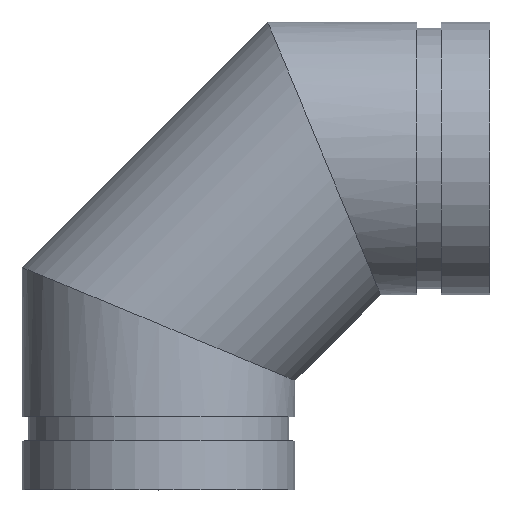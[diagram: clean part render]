
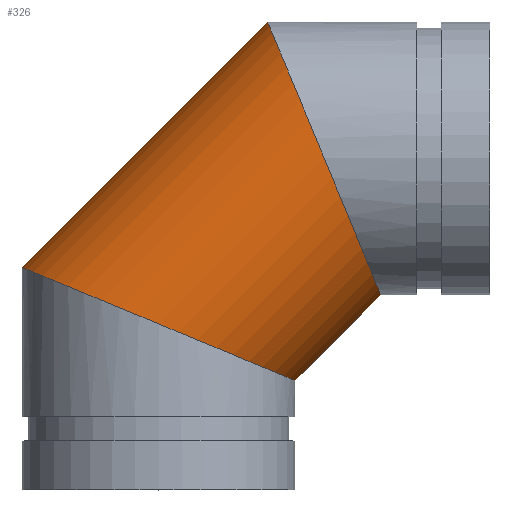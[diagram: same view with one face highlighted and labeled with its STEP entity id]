
A CAD part, top view. The second image highlights one B-rep face of the part: STEP entity #326.
In plain terms, the highlighted cylindrical face has radius 44.45 mm (diameter 88.9 mm), a full revolution.
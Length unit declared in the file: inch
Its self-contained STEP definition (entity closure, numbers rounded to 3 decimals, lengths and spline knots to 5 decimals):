
#51=ELLIPSE('',#383,1.89419,1.75);
#52=ELLIPSE('',#384,1.89419,1.75);
#53=ELLIPSE('',#385,1.89419,1.75);
#54=ELLIPSE('',#388,1.89419,1.75);
#55=ELLIPSE('',#389,1.89419,1.75);
#56=ELLIPSE('',#390,1.89419,1.75);
#82=FACE_OUTER_BOUND('',#103,.T.);
#103=EDGE_LOOP('',(#269,#270,#271,#272,#273,#274,#275,#276));
#115=LINE('',#606,#125);
#125=VECTOR('',#494,1.75);
#165=VERTEX_POINT('',#596);
#166=VERTEX_POINT('',#598);
#167=VERTEX_POINT('',#600);
#168=VERTEX_POINT('',#605);
#169=VERTEX_POINT('',#607);
#170=VERTEX_POINT('',#609);
#201=EDGE_CURVE('',#165,#166,#51,.T.);
#202=EDGE_CURVE('',#167,#166,#52,.T.);
#203=EDGE_CURVE('',#167,#165,#53,.T.);
#204=EDGE_CURVE('',#165,#168,#115,.T.);
#205=EDGE_CURVE('',#168,#169,#54,.T.);
#206=EDGE_CURVE('',#170,#169,#55,.T.);
#207=EDGE_CURVE('',#170,#168,#56,.T.);
#269=ORIENTED_EDGE('',*,*,#203,.F.);
#270=ORIENTED_EDGE('',*,*,#202,.T.);
#271=ORIENTED_EDGE('',*,*,#201,.F.);
#272=ORIENTED_EDGE('',*,*,#204,.T.);
#273=ORIENTED_EDGE('',*,*,#205,.T.);
#274=ORIENTED_EDGE('',*,*,#206,.F.);
#275=ORIENTED_EDGE('',*,*,#207,.T.);
#276=ORIENTED_EDGE('',*,*,#204,.F.);
#293=CYLINDRICAL_SURFACE('',#387,1.75);
#326=ADVANCED_FACE('',(#82),#293,.T.);
#383=AXIS2_PLACEMENT_3D('',#599,#484,#485);
#384=AXIS2_PLACEMENT_3D('',#601,#486,#487);
#385=AXIS2_PLACEMENT_3D('',#602,#488,#489);
#387=AXIS2_PLACEMENT_3D('',#604,#492,#493);
#388=AXIS2_PLACEMENT_3D('',#608,#495,#496);
#389=AXIS2_PLACEMENT_3D('',#610,#497,#498);
#390=AXIS2_PLACEMENT_3D('',#611,#499,#500);
#484=DIRECTION('center_axis',(-0.383,-0.924,0.));
#485=DIRECTION('ref_axis',(0.924,-0.383,0.));
#486=DIRECTION('center_axis',(0.383,0.924,0.));
#487=DIRECTION('ref_axis',(0.924,-0.383,0.));
#488=DIRECTION('center_axis',(-0.383,-0.924,0.));
#489=DIRECTION('ref_axis',(0.924,-0.383,0.));
#492=DIRECTION('center_axis',(-0.707,-0.707,0.));
#493=DIRECTION('ref_axis',(0.707,-0.707,0.));
#494=DIRECTION('',(0.707,0.707,0.));
#495=DIRECTION('center_axis',(-0.924,-0.383,0.));
#496=DIRECTION('ref_axis',(0.383,-0.924,0.));
#497=DIRECTION('center_axis',(0.924,0.383,0.));
#498=DIRECTION('ref_axis',(0.383,-0.924,0.));
#499=DIRECTION('center_axis',(-0.924,-0.383,0.));
#500=DIRECTION('ref_axis',(0.383,-0.924,0.));
#596=CARTESIAN_POINT('',(-1.75,-1.40013,0.));
#598=CARTESIAN_POINT('',(0.,-2.125,-1.75));
#599=CARTESIAN_POINT('Origin',(0.,-2.125,0.));
#600=CARTESIAN_POINT('',(0.,-2.125,1.75));
#601=CARTESIAN_POINT('Origin',(0.,-2.125,0.));
#602=CARTESIAN_POINT('Origin',(0.,-2.125,0.));
#604=CARTESIAN_POINT('Origin',(2.125,0.,0.));
#605=CARTESIAN_POINT('',(1.40013,1.75,0.));
#606=CARTESIAN_POINT('',(0.88756,1.23744,0.));
#607=CARTESIAN_POINT('',(2.125,0.,-1.75));
#608=CARTESIAN_POINT('Origin',(2.125,0.,0.));
#609=CARTESIAN_POINT('',(2.125,0.,1.75));
#610=CARTESIAN_POINT('Origin',(2.125,0.,0.));
#611=CARTESIAN_POINT('Origin',(2.125,0.,0.));
